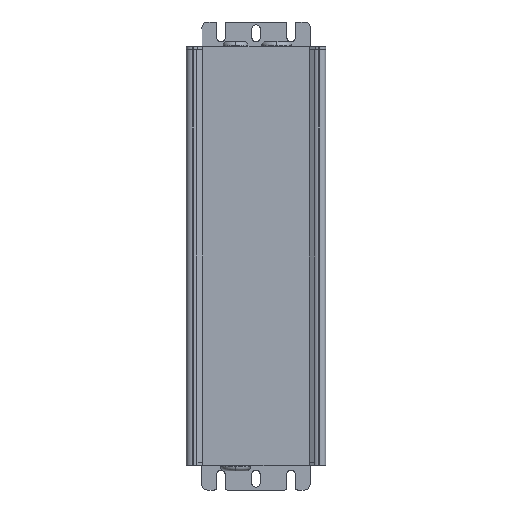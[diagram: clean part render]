
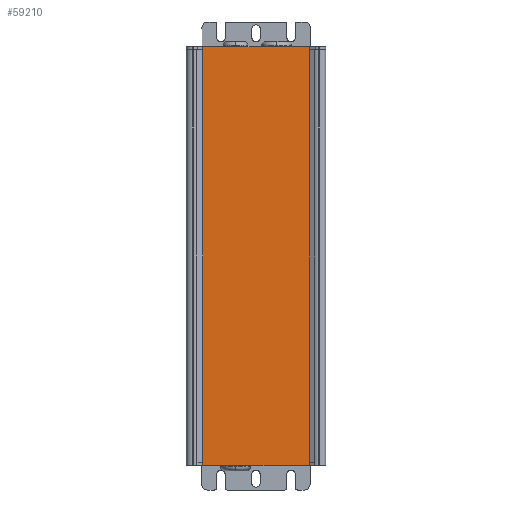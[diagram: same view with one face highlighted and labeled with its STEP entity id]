
A CAD part, left-side view. The second image highlights one B-rep face of the part: STEP entity #59210.
In plain terms, the highlighted planar face has unit normal (-1, 0, 0).
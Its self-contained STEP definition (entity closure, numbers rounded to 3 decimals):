
#3070=CARTESIAN_POINT('',(1767.992,-2398.164,
177.8));
#3080=VERTEX_POINT('',#3070);
#3110=CARTESIAN_POINT('',(1767.992,-2398.164,0.));
#3120=DIRECTION('',(0.,0.,1.));
#3130=VECTOR('',#3120,1.);
#3140=LINE('',#3110,#3130);
#3150=CARTESIAN_POINT('',(1767.992,-2398.164,-23.));
#3160=VERTEX_POINT('',#3150);
#3170=EDGE_CURVE('',#3160,#3080,#3140,.T.);
#3730=CARTESIAN_POINT('',(1767.992,-2450.164,0.));
#3740=DIRECTION('',(0.,0.,1.));
#3750=VECTOR('',#3740,1.);
#3760=LINE('',#3730,#3750);
#3770=CARTESIAN_POINT('',(1767.992,-2450.164,-23.));
#3780=VERTEX_POINT('',#3770);
#3790=CARTESIAN_POINT('',(1767.992,-2450.164,177.8));
#3800=VERTEX_POINT('',#3790);
#3810=EDGE_CURVE('',#3780,#3800,#3760,.T.);
#49090=CARTESIAN_POINT('',(1767.992,-2398.214,
177.8));
#49100=VERTEX_POINT('',#49090);
#49130=CARTESIAN_POINT('',(1767.992,0.,177.8));
#49140=DIRECTION('',(0.,1.,0.));
#49150=VECTOR('',#49140,1.);
#49160=LINE('',#49130,#49150);
#49170=EDGE_CURVE('',#49100,#3080,#49160,.T.);
#49410=CARTESIAN_POINT('',(1767.992,-2398.164,
-24.76));
#49420=DIRECTION('',(0.,0.,1.));
#49430=VECTOR('',#49420,1.);
#49440=LINE('',#49410,#49430);
#49450=CARTESIAN_POINT('',(1767.992,-2398.164,
-24.6));
#49460=VERTEX_POINT('',#49450);
#49470=EDGE_CURVE('',#49460,#3160,#49440,.T.);
#49750=CARTESIAN_POINT('',(1767.992,-2450.164,-24.6));
#49760=VERTEX_POINT('',#49750);
#49790=CARTESIAN_POINT('',(1767.992,-2450.164,
-24.76));
#49800=DIRECTION('',(0.,0.,1.));
#49810=VECTOR('',#49800,1.);
#49820=LINE('',#49790,#49810);
#49830=EDGE_CURVE('',#49760,#3780,#49820,.T.);
#51050=CARTESIAN_POINT('',(1767.992,-2398.214,
179.4));
#51060=VERTEX_POINT('',#51050);
#51090=CARTESIAN_POINT('',(1767.992,-2398.214,
179.56));
#51100=DIRECTION('',(0.,0.,-1.));
#51110=VECTOR('',#51100,1.);
#51120=LINE('',#51090,#51110);
#51130=EDGE_CURVE('',#51060,#49100,#51120,.T.);
#56540=CARTESIAN_POINT('',(1767.992,-2450.214,
179.4));
#56550=VERTEX_POINT('',#56540);
#56580=CARTESIAN_POINT('',(1767.992,-446.929,
179.4));
#56590=DIRECTION('',(0.,-1.,0.));
#56600=VECTOR('',#56590,1.);
#56610=LINE('',#56580,#56600);
#56620=EDGE_CURVE('',#51060,#56550,#56610,.T.);
#58870=CARTESIAN_POINT('',(1767.992,-2450.214,
203.76));
#58880=DIRECTION('',(1.,0.,0.));
#58890=DIRECTION('',(0.,1.,0.));
#58900=AXIS2_PLACEMENT_3D('',#58870,#58880,#58890);
#58910=PLANE('',#58900);
#58920=ORIENTED_EDGE('',*,*,#3810,.T.);
#58930=ORIENTED_EDGE('',*,*,#49830,.T.);
#58940=CARTESIAN_POINT('',(1767.992,-4401.448,-24.6));
#58950=DIRECTION('',(0.,1.,0.));
#58960=VECTOR('',#58950,1.);
#58970=LINE('',#58940,#58960);
#58980=EDGE_CURVE('',#49760,#49460,#58970,.T.);
#58990=ORIENTED_EDGE('',*,*,#58980,.F.);
#59000=ORIENTED_EDGE('',*,*,#49470,.F.);
#59010=ORIENTED_EDGE('',*,*,#3170,.F.);
#59020=ORIENTED_EDGE('',*,*,#49170,.T.);
#59030=ORIENTED_EDGE('',*,*,#51130,.T.);
#59040=ORIENTED_EDGE('',*,*,#56620,.F.);
#59050=CARTESIAN_POINT('',(1767.992,-2450.214,
179.56));
#59060=DIRECTION('',(0.,0.,-1.));
#59070=VECTOR('',#59060,1.);
#59080=LINE('',#59050,#59070);
#59090=CARTESIAN_POINT('',(1767.992,-2450.214,177.8));
#59100=VERTEX_POINT('',#59090);
#59110=EDGE_CURVE('',#56550,#59100,#59080,.T.);
#59120=ORIENTED_EDGE('',*,*,#59110,.F.);
#59130=CARTESIAN_POINT('',(1767.992,0.,177.8));
#59140=DIRECTION('',(0.,1.,0.));
#59150=VECTOR('',#59140,1.);
#59160=LINE('',#59130,#59150);
#59170=EDGE_CURVE('',#59100,#3800,#59160,.T.);
#59180=ORIENTED_EDGE('',*,*,#59170,.F.);
#59190=EDGE_LOOP('',(#59180,#59120,#59040,#59030,#59020,#59010,#59000,
#58990,#58930,#58920));
#59200=FACE_OUTER_BOUND('',#59190,.T.);
#59210=ADVANCED_FACE('',(#59200),#58910,.F.);
